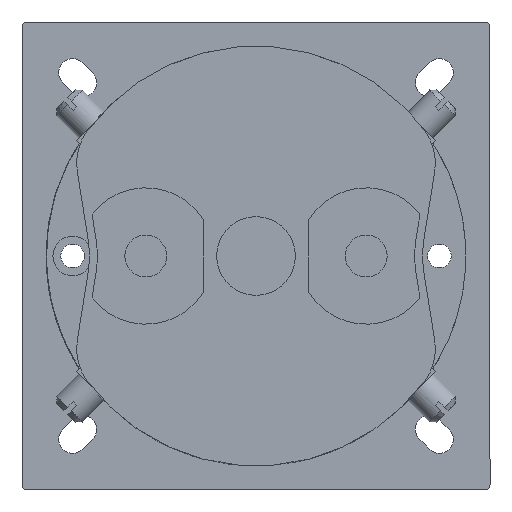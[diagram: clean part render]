
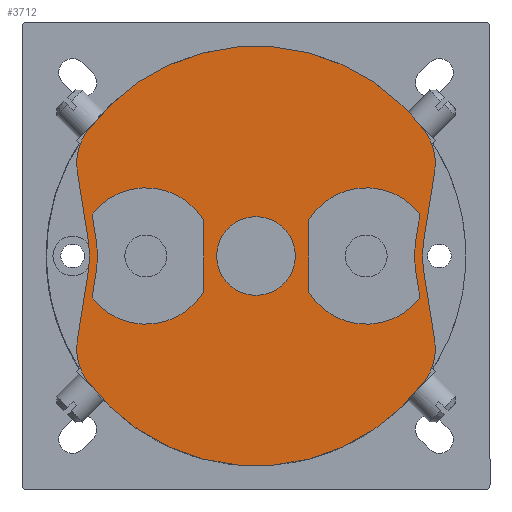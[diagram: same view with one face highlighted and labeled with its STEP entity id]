
A CAD part, front view. The second image highlights one B-rep face of the part: STEP entity #3712.
In plain terms, the highlighted planar face has unit normal (0, -1, 0).
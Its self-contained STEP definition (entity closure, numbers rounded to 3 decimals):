
#1991=FACE_BOUND('',#9944,.T.);
#1992=FACE_BOUND('',#9945,.T.);
#1993=FACE_BOUND('',#9946,.T.);
#1994=FACE_BOUND('',#9947,.T.);
#3712=ADVANCED_FACE('',(#1991,#1992,#1993,#1994),#5511,.T.);
#5511=PLANE('',#42327);
#9944=EDGE_LOOP('',(#20142,#20143,#20144,#20145,#20146,#20147));
#9945=EDGE_LOOP('',(#20148,#20149,#20150,#20151,#20152,#20153));
#9946=EDGE_LOOP('',(#20154,#20155,#20156,#20157,#20158,#20159,#20160,#20161,
#20162,#20163,#20164,#20165));
#9947=EDGE_LOOP('',(#20166));
#11442=CIRCLE('',#42299,7.5);
#11443=CIRCLE('',#42301,13.);
#11444=CIRCLE('',#42304,21.5);
#11445=CIRCLE('',#42307,13.);
#11446=CIRCLE('',#42310,21.5);
#11447=CIRCLE('',#42313,13.);
#11448=CIRCLE('',#42316,13.);
#11449=CIRCLE('',#42319,10.);
#11450=CIRCLE('',#42320,20.);
#11451=CIRCLE('',#42321,10.);
#11452=CIRCLE('',#42322,40.);
#11453=CIRCLE('',#42323,10.);
#11454=CIRCLE('',#42324,20.);
#11455=CIRCLE('',#42325,10.);
#11456=CIRCLE('',#42326,40.);
#20142=ORIENTED_EDGE('',*,*,#30653,.T.);
#20143=ORIENTED_EDGE('',*,*,#30651,.T.);
#20144=ORIENTED_EDGE('',*,*,#30649,.T.);
#20145=ORIENTED_EDGE('',*,*,#30647,.T.);
#20146=ORIENTED_EDGE('',*,*,#30645,.T.);
#20147=ORIENTED_EDGE('',*,*,#30642,.T.);
#20148=ORIENTED_EDGE('',*,*,#30641,.F.);
#20149=ORIENTED_EDGE('',*,*,#30639,.F.);
#20150=ORIENTED_EDGE('',*,*,#30637,.F.);
#20151=ORIENTED_EDGE('',*,*,#30635,.F.);
#20152=ORIENTED_EDGE('',*,*,#30633,.F.);
#20153=ORIENTED_EDGE('',*,*,#30630,.F.);
#20154=ORIENTED_EDGE('',*,*,#30654,.T.);
#20155=ORIENTED_EDGE('',*,*,#30655,.T.);
#20156=ORIENTED_EDGE('',*,*,#30656,.T.);
#20157=ORIENTED_EDGE('',*,*,#30657,.T.);
#20158=ORIENTED_EDGE('',*,*,#30658,.T.);
#20159=ORIENTED_EDGE('',*,*,#30659,.T.);
#20160=ORIENTED_EDGE('',*,*,#30660,.T.);
#20161=ORIENTED_EDGE('',*,*,#30661,.T.);
#20162=ORIENTED_EDGE('',*,*,#30662,.T.);
#20163=ORIENTED_EDGE('',*,*,#30663,.T.);
#20164=ORIENTED_EDGE('',*,*,#30664,.T.);
#20165=ORIENTED_EDGE('',*,*,#30665,.T.);
#20166=ORIENTED_EDGE('',*,*,#30629,.F.);
#25564=VERTEX_POINT('',#66370);
#25565=VERTEX_POINT('',#66373);
#25566=VERTEX_POINT('',#66374);
#25567=VERTEX_POINT('',#66379);
#25568=VERTEX_POINT('',#66383);
#25569=VERTEX_POINT('',#66387);
#25570=VERTEX_POINT('',#66391);
#25571=VERTEX_POINT('',#66397);
#25572=VERTEX_POINT('',#66398);
#25573=VERTEX_POINT('',#66403);
#25574=VERTEX_POINT('',#66407);
#25575=VERTEX_POINT('',#66411);
#25576=VERTEX_POINT('',#66415);
#25577=VERTEX_POINT('',#66421);
#25578=VERTEX_POINT('',#66422);
#25579=VERTEX_POINT('',#66424);
#25580=VERTEX_POINT('',#66426);
#25581=VERTEX_POINT('',#66428);
#25582=VERTEX_POINT('',#66430);
#25583=VERTEX_POINT('',#66432);
#25584=VERTEX_POINT('',#66434);
#25585=VERTEX_POINT('',#66436);
#25586=VERTEX_POINT('',#66438);
#25587=VERTEX_POINT('',#66440);
#25588=VERTEX_POINT('',#66442);
#30629=EDGE_CURVE('',#25564,#25564,#11442,.T.);
#30630=EDGE_CURVE('',#25565,#25566,#11443,.T.);
#30633=EDGE_CURVE('',#25566,#25567,#34874,.T.);
#30635=EDGE_CURVE('',#25567,#25568,#11444,.T.);
#30637=EDGE_CURVE('',#25568,#25569,#34877,.T.);
#30639=EDGE_CURVE('',#25569,#25570,#11445,.T.);
#30641=EDGE_CURVE('',#25570,#25565,#34880,.T.);
#30642=EDGE_CURVE('',#25571,#25572,#11446,.T.);
#30645=EDGE_CURVE('',#25573,#25571,#34883,.T.);
#30647=EDGE_CURVE('',#25574,#25573,#11447,.T.);
#30649=EDGE_CURVE('',#25575,#25574,#34886,.T.);
#30651=EDGE_CURVE('',#25576,#25575,#11448,.T.);
#30653=EDGE_CURVE('',#25572,#25576,#34889,.T.);
#30654=EDGE_CURVE('',#25577,#25578,#11449,.T.);
#30655=EDGE_CURVE('',#25578,#25579,#34890,.T.);
#30656=EDGE_CURVE('',#25579,#25580,#11450,.T.);
#30657=EDGE_CURVE('',#25580,#25581,#34891,.T.);
#30658=EDGE_CURVE('',#25581,#25582,#11451,.T.);
#30659=EDGE_CURVE('',#25582,#25583,#11452,.T.);
#30660=EDGE_CURVE('',#25583,#25584,#11453,.T.);
#30661=EDGE_CURVE('',#25584,#25585,#34892,.T.);
#30662=EDGE_CURVE('',#25585,#25586,#11454,.T.);
#30663=EDGE_CURVE('',#25586,#25587,#34893,.T.);
#30664=EDGE_CURVE('',#25587,#25588,#11455,.T.);
#30665=EDGE_CURVE('',#25588,#25577,#11456,.T.);
#34874=LINE('',#66378,#38817);
#34877=LINE('',#66386,#38820);
#34880=LINE('',#66394,#38823);
#34883=LINE('',#66402,#38826);
#34886=LINE('',#66410,#38829);
#34889=LINE('',#66418,#38832);
#34890=LINE('',#66423,#38833);
#34891=LINE('',#66427,#38834);
#34892=LINE('',#66435,#38835);
#34893=LINE('',#66439,#38836);
#38817=VECTOR('',#51541,1.);
#38820=VECTOR('',#51550,1.);
#38823=VECTOR('',#51559,1.);
#38826=VECTOR('',#51568,1.);
#38829=VECTOR('',#51577,1.);
#38832=VECTOR('',#51586,1.);
#38833=VECTOR('',#51591,1.);
#38834=VECTOR('',#51594,1.);
#38835=VECTOR('',#51601,1.);
#38836=VECTOR('',#51604,1.);
#42299=AXIS2_PLACEMENT_3D('',#66369,#51531,#51532);
#42301=AXIS2_PLACEMENT_3D('',#66372,#51535,#51536);
#42304=AXIS2_PLACEMENT_3D('',#66382,#51545,#51546);
#42307=AXIS2_PLACEMENT_3D('',#66390,#51554,#51555);
#42310=AXIS2_PLACEMENT_3D('',#66396,#51562,#51563);
#42313=AXIS2_PLACEMENT_3D('',#66406,#51572,#51573);
#42316=AXIS2_PLACEMENT_3D('',#66414,#51581,#51582);
#42319=AXIS2_PLACEMENT_3D('',#66420,#51589,#51590);
#42320=AXIS2_PLACEMENT_3D('',#66425,#51592,#51593);
#42321=AXIS2_PLACEMENT_3D('',#66429,#51595,#51596);
#42322=AXIS2_PLACEMENT_3D('',#66431,#51597,#51598);
#42323=AXIS2_PLACEMENT_3D('',#66433,#51599,#51600);
#42324=AXIS2_PLACEMENT_3D('',#66437,#51602,#51603);
#42325=AXIS2_PLACEMENT_3D('',#66441,#51605,#51606);
#42326=AXIS2_PLACEMENT_3D('',#66443,#51607,#51608);
#42327=AXIS2_PLACEMENT_3D('',#66444,#51609,#51610);
#51531=DIRECTION('',(0.,-1.,0.));
#51532=DIRECTION('',(0.,0.,-1.));
#51535=DIRECTION('',(0.,-1.,0.));
#51536=DIRECTION('',(1.,0.,0.));
#51541=DIRECTION('',(-0.156,0.,0.988));
#51545=DIRECTION('',(0.,1.,0.));
#51546=DIRECTION('',(1.,0.,0.));
#51550=DIRECTION('',(0.156,0.,0.988));
#51554=DIRECTION('',(0.,-1.,0.));
#51555=DIRECTION('',(1.,0.,0.));
#51559=DIRECTION('',(0.,0.,-1.));
#51562=DIRECTION('',(0.,-1.,0.));
#51563=DIRECTION('',(1.,0.,0.));
#51568=DIRECTION('',(0.156,0.,0.988));
#51572=DIRECTION('',(0.,1.,0.));
#51573=DIRECTION('',(1.,0.,0.));
#51577=DIRECTION('',(0.,0.,-1.));
#51581=DIRECTION('',(0.,1.,0.));
#51582=DIRECTION('',(1.,0.,0.));
#51586=DIRECTION('',(-0.156,0.,0.988));
#51589=DIRECTION('',(0.,-1.,0.));
#51590=DIRECTION('',(0.,0.,-1.));
#51591=DIRECTION('',(0.156,0.,-0.988));
#51592=DIRECTION('',(0.,1.,0.));
#51593=DIRECTION('',(0.,0.,-1.));
#51594=DIRECTION('',(-0.156,0.,-0.988));
#51595=DIRECTION('',(0.,-1.,0.));
#51596=DIRECTION('',(0.,0.,-1.));
#51597=DIRECTION('',(0.,-1.,0.));
#51598=DIRECTION('',(0.,0.,-1.));
#51599=DIRECTION('',(0.,-1.,0.));
#51600=DIRECTION('',(0.,0.,-1.));
#51601=DIRECTION('',(-0.156,0.,0.988));
#51602=DIRECTION('',(0.,1.,0.));
#51603=DIRECTION('',(0.,0.,-1.));
#51604=DIRECTION('',(0.156,0.,0.988));
#51605=DIRECTION('',(0.,-1.,0.));
#51606=DIRECTION('',(0.,0.,-1.));
#51607=DIRECTION('',(0.,-1.,0.));
#51608=DIRECTION('',(0.,0.,-1.));
#51609=DIRECTION('',(0.,-1.,0.));
#51610=DIRECTION('',(0.,0.,-1.));
#66369=CARTESIAN_POINT('',(0.,-260.5,0.));
#66370=CARTESIAN_POINT('',(0.,-260.5,-7.5));
#66372=CARTESIAN_POINT('',(21.031,-260.5,0.));
#66373=CARTESIAN_POINT('',(10.031,-260.5,-6.928));
#66374=CARTESIAN_POINT('',(31.253,-260.5,-8.032));
#66378=CARTESIAN_POINT('',(31.253,-260.5,-8.032));
#66379=CARTESIAN_POINT('',(30.514,-260.5,-3.363));
#66382=CARTESIAN_POINT('',(51.749,-260.5,0.));
#66383=CARTESIAN_POINT('',(30.514,-260.5,3.363));
#66386=CARTESIAN_POINT('',(30.514,-260.5,3.363));
#66387=CARTESIAN_POINT('',(31.253,-260.5,8.032));
#66390=CARTESIAN_POINT('',(21.031,-260.5,0.));
#66391=CARTESIAN_POINT('',(10.031,-260.5,6.928));
#66394=CARTESIAN_POINT('',(10.031,-260.5,6.928));
#66396=CARTESIAN_POINT('',(-51.749,-260.5,0.));
#66397=CARTESIAN_POINT('',(-30.514,-260.5,-3.363));
#66398=CARTESIAN_POINT('',(-30.514,-260.5,3.363));
#66402=CARTESIAN_POINT('',(-31.248,-260.5,-7.998));
#66403=CARTESIAN_POINT('',(-31.248,-260.5,-7.998));
#66406=CARTESIAN_POINT('',(-21.,-260.5,0.));
#66407=CARTESIAN_POINT('',(-10.,-260.5,-6.928));
#66410=CARTESIAN_POINT('',(-10.,-260.5,6.928));
#66411=CARTESIAN_POINT('',(-10.,-260.5,6.928));
#66414=CARTESIAN_POINT('',(-21.,-260.5,0.));
#66415=CARTESIAN_POINT('',(-31.248,-260.5,7.998));
#66418=CARTESIAN_POINT('',(-30.514,-260.5,3.363));
#66420=CARTESIAN_POINT('',(-24.186,-260.5,17.749));
#66421=CARTESIAN_POINT('',(-32.249,-260.5,23.665));
#66422=CARTESIAN_POINT('',(-34.063,-260.5,16.184));
#66423=CARTESIAN_POINT('',(-34.063,-260.5,16.184));
#66424=CARTESIAN_POINT('',(-31.996,-260.5,3.129));
#66425=CARTESIAN_POINT('',(-51.749,-260.5,0.));
#66426=CARTESIAN_POINT('',(-31.996,-260.5,-3.129));
#66427=CARTESIAN_POINT('',(-31.996,-260.5,-3.129));
#66428=CARTESIAN_POINT('',(-34.063,-260.5,-16.184));
#66429=CARTESIAN_POINT('',(-24.186,-260.5,-17.749));
#66430=CARTESIAN_POINT('',(-32.249,-260.5,-23.665));
#66431=CARTESIAN_POINT('',(0.,-260.5,0.));
#66432=CARTESIAN_POINT('',(32.249,-260.5,-23.665));
#66433=CARTESIAN_POINT('',(24.186,-260.5,-17.749));
#66434=CARTESIAN_POINT('',(34.063,-260.5,-16.184));
#66435=CARTESIAN_POINT('',(34.063,-260.5,-16.184));
#66436=CARTESIAN_POINT('',(31.996,-260.5,-3.129));
#66437=CARTESIAN_POINT('',(51.749,-260.5,0.));
#66438=CARTESIAN_POINT('',(31.996,-260.5,3.129));
#66439=CARTESIAN_POINT('',(31.996,-260.5,3.129));
#66440=CARTESIAN_POINT('',(34.063,-260.5,16.184));
#66441=CARTESIAN_POINT('',(24.186,-260.5,17.749));
#66442=CARTESIAN_POINT('',(32.249,-260.5,23.665));
#66443=CARTESIAN_POINT('',(0.,-260.5,0.));
#66444=CARTESIAN_POINT('',(-24.186,-260.5,17.749));
